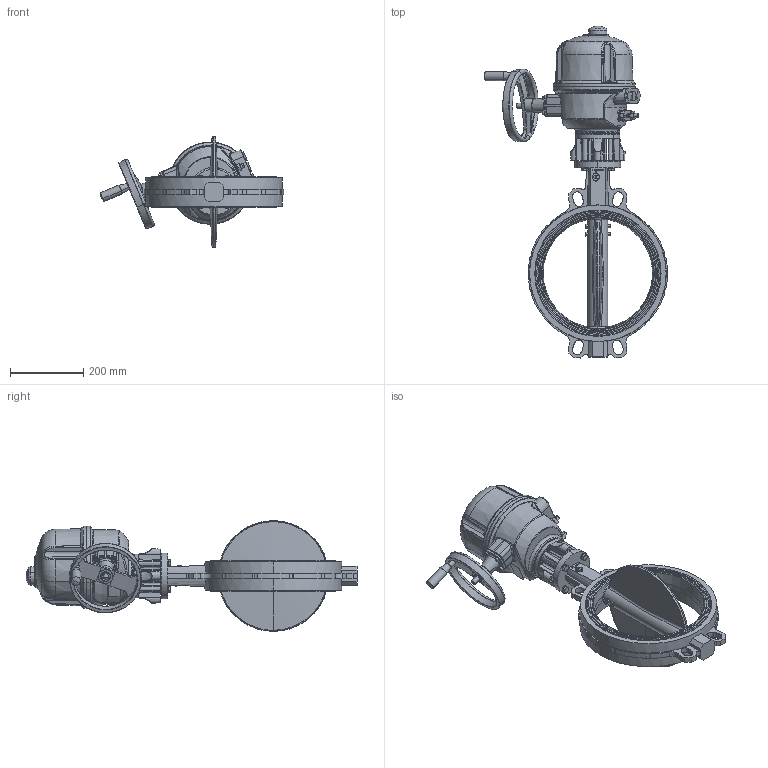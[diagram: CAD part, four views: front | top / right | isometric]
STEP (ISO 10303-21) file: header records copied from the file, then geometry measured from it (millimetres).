
FILE_DESCRIPTION (( 'STEP AP214' ), '1' );
FILE_NAME ('VPG444X-BX4XX0300.step', '2022-09-20T09:55:51', ( '' ), ( '' ), 'SwSTEP 2.0', 'SolidWorks 2020', '' );
FILE_SCHEMA (( 'AUTOMOTIVE_DESIGN' ));
Length unit declared in the file: millimetre
Products named in the file (1): VPG444X-BX4XX0300
Bounding box: 499.17 x 904.19 x 301.6 mm (x, y, z)
Surface area: 942163.4 mm2 (no closed solid volume)
Topology: 0 solids, 76 shells, 1051 faces, 5261 edges, 4158 vertices
Faces by surface type: plane 339, cylinder 255, bspline 199, cone 132, torus 116, sphere 10
Entity records: 103482 total; most frequent: CARTESIAN_POINT 58072, ORIENTED_EDGE 7311, EDGE_CURVE 5233, DIRECTION 4275, VERTEX_POINT 4157, B_SPLINE_CURVE_WITH_KNOTS 2997, LINE 1663, VECTOR 1663
